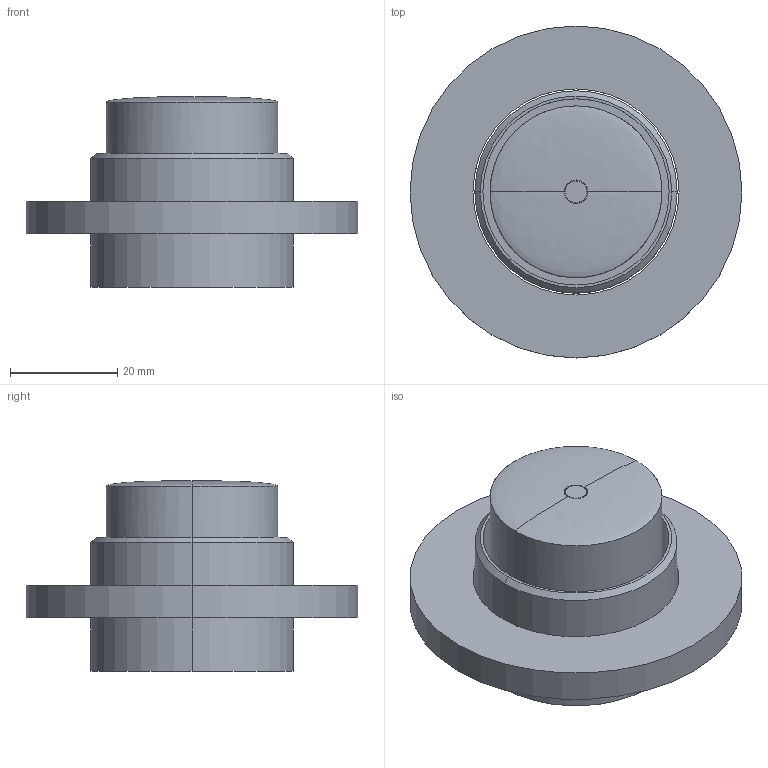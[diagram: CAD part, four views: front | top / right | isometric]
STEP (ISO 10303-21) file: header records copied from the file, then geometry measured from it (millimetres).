
FILE_DESCRIPTION (( 'STEP AP203' ), '1' );
FILE_NAME ('pm3001.STEP', '2016-08-15T10:09:22', ( '' ), ( '' ), 'SwSTEP 2.0', 'SolidWorks 2016', '' );
FILE_SCHEMA (( 'CONFIG_CONTROL_DESIGN' ));
Length unit declared in the file: millimetre
Products named in the file (1): pm3001
Bounding box: 61.85 x 61.85 x 35.5 mm (x, y, z)
Volume: 45710.3 mm3; surface area: 15505.2 mm2
Topology: 3 solids, 3 shells, 27 faces, 50 edges, 32 vertices
Faces by surface type: cylinder 14, plane 9, cone 2, bspline 2
Entity records: 1203 total; most frequent: CARTESIAN_POINT 578, DIRECTION 124, ORIENTED_EDGE 100, AXIS2_PLACEMENT_3D 54, EDGE_CURVE 50, VERTEX_POINT 32, EDGE_LOOP 32, CIRCLE 28
